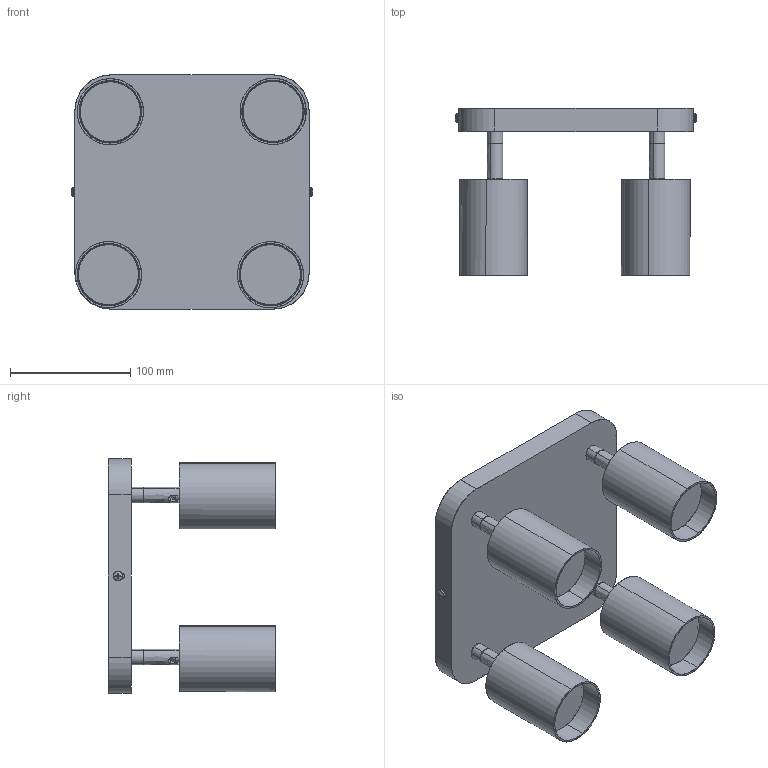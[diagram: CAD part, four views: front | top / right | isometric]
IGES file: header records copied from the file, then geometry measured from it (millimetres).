
Start section: SolidWorks IGES file using analytic representation for surfaces
Global section: file name: E:\3D lampy\Eye spot\Eye spot_IV\Eye spot IV.IGS; native system: SolidWorks 2016; preprocessor: SolidWorks 2016; author: Asia; date: 170517.103616; units: millimetre
Bounding box: 201.13 x 139.07 x 195 mm (x, y, z)
Surface area: 283649.1 mm2 (no closed solid volume)
Topology: 0 solids, 0 shells, 672 faces, 11969 edges, 11938 vertices
Faces by surface type: revolution 343, bspline 329
